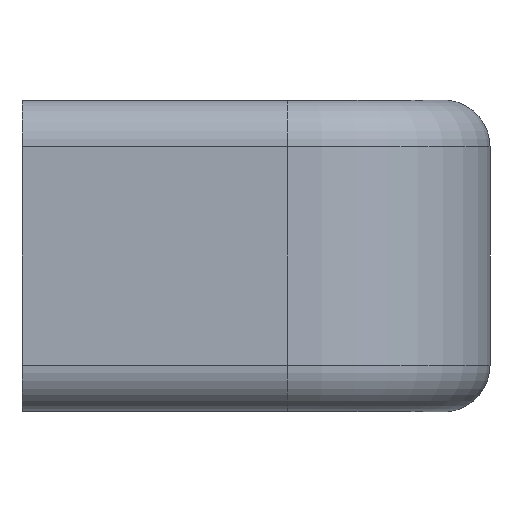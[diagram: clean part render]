
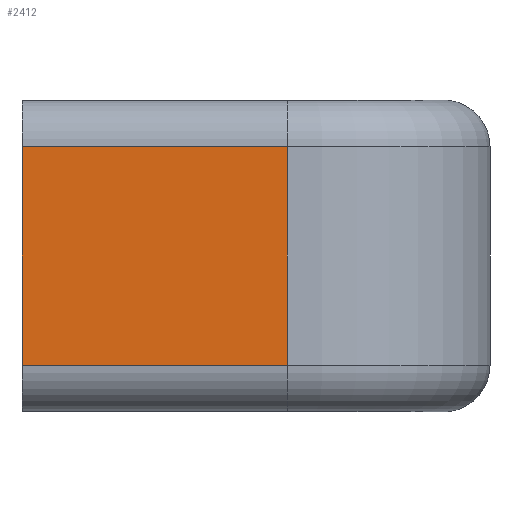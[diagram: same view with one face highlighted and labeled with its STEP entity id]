
A CAD part, front view. The second image highlights one B-rep face of the part: STEP entity #2412.
In plain terms, the highlighted planar face has unit normal (0, -1, 0).
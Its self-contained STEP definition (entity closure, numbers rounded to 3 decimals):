
#90 = CARTESIAN_POINT ( 'NONE',  ( -27., -83., 7. ) ) ;
#91 = VERTEX_POINT ( 'NONE', #1010 ) ;
#315 = DIRECTION ( 'NONE',  ( 0., 0., 1. ) ) ;
#484 = CARTESIAN_POINT ( 'NONE',  ( -10., -83., 7. ) ) ;
#527 = EDGE_CURVE ( 'NONE', #942, #1051, #2455, .T. ) ;
#582 = DIRECTION ( 'NONE',  ( 0., 0., -1. ) ) ;
#634 = CARTESIAN_POINT ( 'NONE',  ( -10., -83., 7. ) ) ;
#651 = ORIENTED_EDGE ( 'NONE', *, *, #1352, .T. ) ;
#674 = DIRECTION ( 'NONE',  ( -1., 0., 0. ) ) ;
#676 = CARTESIAN_POINT ( 'NONE',  ( -27., -83., -7. ) ) ;
#899 = DIRECTION ( 'NONE',  ( 0., -1., 0. ) ) ;
#942 = VERTEX_POINT ( 'NONE', #676 ) ;
#948 = LINE ( 'NONE', #634, #1717 ) ;
#984 = CARTESIAN_POINT ( 'NONE',  ( -10., -83., 7. ) ) ;
#1010 = CARTESIAN_POINT ( 'NONE',  ( -10., -83., -7. ) ) ;
#1051 = VERTEX_POINT ( 'NONE', #90 ) ;
#1063 = DIRECTION ( 'NONE',  ( -1., 0., 0. ) ) ;
#1194 = DIRECTION ( 'NONE',  ( 0., 0., 1. ) ) ;
#1205 = CARTESIAN_POINT ( 'NONE',  ( -10., -83., 7. ) ) ;
#1352 = EDGE_CURVE ( 'NONE', #1472, #1051, #1614, .T. ) ;
#1375 = CARTESIAN_POINT ( 'NONE',  ( -10., -83., -7. ) ) ;
#1472 = VERTEX_POINT ( 'NONE', #484 ) ;
#1473 = FACE_OUTER_BOUND ( 'NONE', #1661, .T. ) ;
#1510 = CARTESIAN_POINT ( 'NONE',  ( -27., -83., 7. ) ) ;
#1526 = PLANE ( 'NONE',  #2286 ) ;
#1549 = VECTOR ( 'NONE', #1194, 1000. ) ;
#1595 = VECTOR ( 'NONE', #1063, 1000. ) ;
#1614 = LINE ( 'NONE', #984, #1670 ) ;
#1644 = ORIENTED_EDGE ( 'NONE', *, *, #1982, .T. ) ;
#1661 = EDGE_LOOP ( 'NONE', ( #1644, #651, #1695, #1904 ) ) ;
#1670 = VECTOR ( 'NONE', #674, 1000. ) ;
#1695 = ORIENTED_EDGE ( 'NONE', *, *, #527, .F. ) ;
#1717 = VECTOR ( 'NONE', #315, 1000. ) ;
#1747 = EDGE_CURVE ( 'NONE', #91, #942, #2004, .T. ) ;
#1904 = ORIENTED_EDGE ( 'NONE', *, *, #1747, .F. ) ;
#1982 = EDGE_CURVE ( 'NONE', #91, #1472, #948, .T. ) ;
#2004 = LINE ( 'NONE', #1375, #1595 ) ;
#2286 = AXIS2_PLACEMENT_3D ( 'NONE', #1205, #899, #582 ) ;
#2412 = ADVANCED_FACE ( 'NONE', ( #1473 ), #1526, .T. ) ;
#2455 = LINE ( 'NONE', #1510, #1549 ) ;
